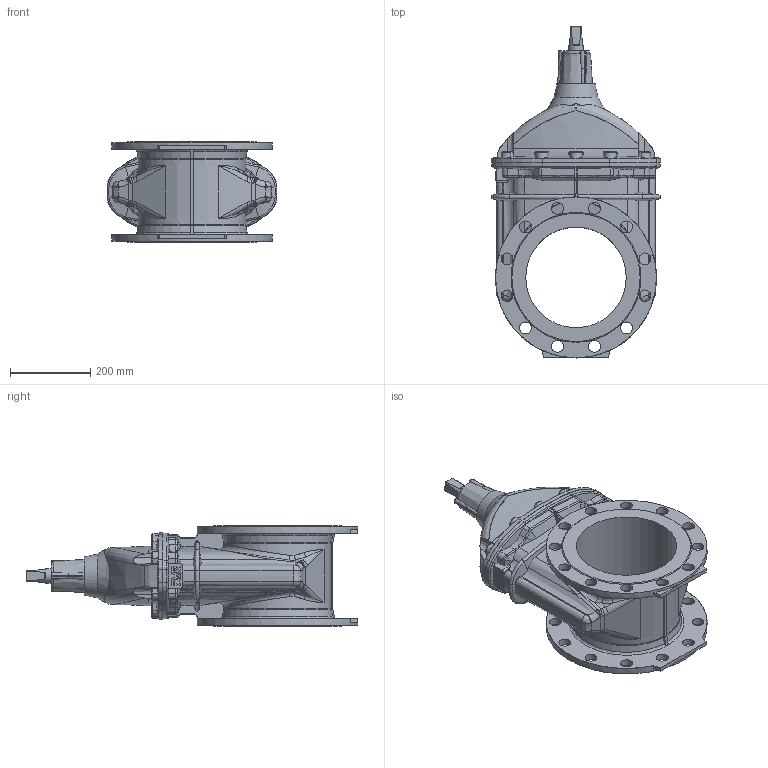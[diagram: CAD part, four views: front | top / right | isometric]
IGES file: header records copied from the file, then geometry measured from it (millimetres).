
Start section: SolidWorks IGES file using analytic representation for surfaces
Global section: file name: \\avksan2\techshare\PBM outline export from Enovia\O_06_30_DN250_XXXXXXX99_PN16_REV02.igs; native system: SolidWorks 2019; preprocessor: SolidWorks 2019; author: pbm; date: 210217.083956; units: millimetre
Bounding box: 422 x 825.1 x 250 mm (x, y, z)
Surface area: 1155757.2 mm2 (no closed solid volume)
Topology: 0 solids, 0 shells, 640 faces, 3364 edges, 3306 vertices
Faces by surface type: revolution 351, bspline 289
